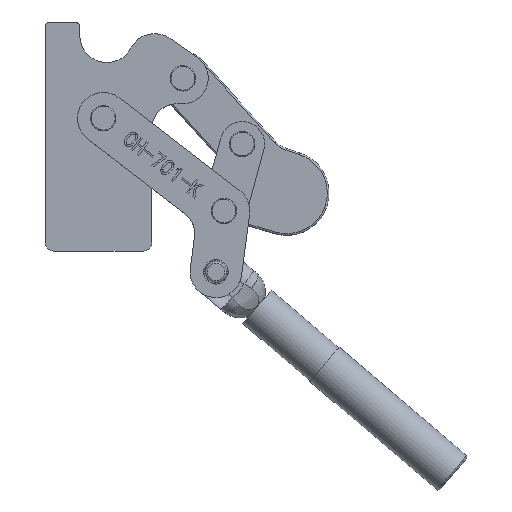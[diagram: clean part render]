
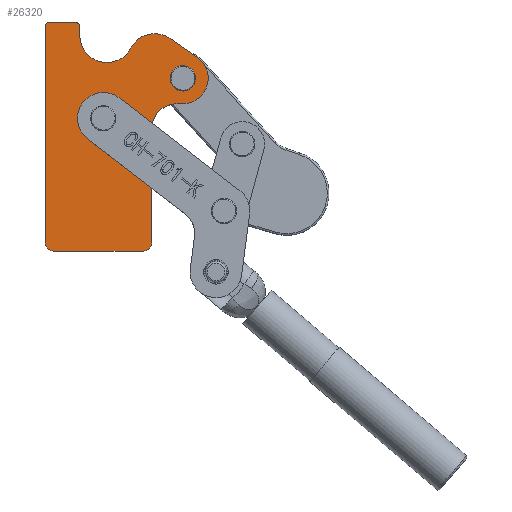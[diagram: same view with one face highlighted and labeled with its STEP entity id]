
A CAD part, top view. The second image highlights one B-rep face of the part: STEP entity #26320.
In plain terms, the highlighted planar face has unit normal (0, 0, 1).
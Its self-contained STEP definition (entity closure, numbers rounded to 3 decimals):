
#354=FACE_BOUND('',#2706,.T.);
#355=FACE_BOUND('',#2707,.T.);
#421=PLANE('',#27984);
#1296=FACE_OUTER_BOUND('',#2705,.T.);
#2705=EDGE_LOOP('',(#17648,#17649,#17650,#17651,#17652,#17653,#17654,#17655,
#17656,#17657,#17658,#17659,#17660,#17661,#17662));
#2706=EDGE_LOOP('',(#17663,#17664));
#2707=EDGE_LOOP('',(#17665,#17666));
#4181=LINE('',#39165,#6749);
#4182=LINE('',#39171,#6750);
#4183=LINE('',#39175,#6751);
#4184=LINE('',#39179,#6752);
#4185=LINE('',#39183,#6753);
#4186=LINE('',#39187,#6754);
#4187=LINE('',#39190,#6755);
#6749=VECTOR('',#30868,1000.);
#6750=VECTOR('',#30873,1000.);
#6751=VECTOR('',#30876,1000.);
#6752=VECTOR('',#30879,1000.);
#6753=VECTOR('',#30882,1000.);
#6754=VECTOR('',#30885,1000.);
#6755=VECTOR('',#30888,1000.);
#9315=CIRCLE('',#27975,6.25);
#9318=CIRCLE('',#27978,6.25);
#9319=CIRCLE('',#27980,8.5);
#9322=CIRCLE('',#27983,8.5);
#9323=CIRCLE('',#27985,15.024);
#9324=CIRCLE('',#27986,16.024);
#9325=CIRCLE('',#27987,16.);
#9326=CIRCLE('',#27988,3.);
#9327=CIRCLE('',#27989,3.);
#9328=CIRCLE('',#27990,5.);
#9329=CIRCLE('',#27991,5.);
#9330=CIRCLE('',#27992,15.);
#10764=VERTEX_POINT('',#39141);
#10765=VERTEX_POINT('',#39142);
#10768=VERTEX_POINT('',#39151);
#10769=VERTEX_POINT('',#39152);
#10772=VERTEX_POINT('',#39161);
#10773=VERTEX_POINT('',#39162);
#10774=VERTEX_POINT('',#39164);
#10775=VERTEX_POINT('',#39166);
#10776=VERTEX_POINT('',#39168);
#10777=VERTEX_POINT('',#39170);
#10778=VERTEX_POINT('',#39172);
#10779=VERTEX_POINT('',#39174);
#10780=VERTEX_POINT('',#39176);
#10781=VERTEX_POINT('',#39178);
#10782=VERTEX_POINT('',#39180);
#10783=VERTEX_POINT('',#39182);
#10784=VERTEX_POINT('',#39184);
#10785=VERTEX_POINT('',#39186);
#10786=VERTEX_POINT('',#39188);
#13525=EDGE_CURVE('',#10764,#10765,#9315,.T.);
#13529=EDGE_CURVE('',#10765,#10764,#9318,.T.);
#13530=EDGE_CURVE('',#10768,#10769,#9319,.T.);
#13534=EDGE_CURVE('',#10769,#10768,#9322,.T.);
#13535=EDGE_CURVE('',#10772,#10773,#9323,.T.);
#13536=EDGE_CURVE('',#10773,#10774,#4181,.T.);
#13537=EDGE_CURVE('',#10774,#10775,#9324,.T.);
#13538=EDGE_CURVE('',#10775,#10776,#9325,.T.);
#13539=EDGE_CURVE('',#10776,#10777,#4182,.T.);
#13540=EDGE_CURVE('',#10777,#10778,#9326,.T.);
#13541=EDGE_CURVE('',#10778,#10779,#4183,.T.);
#13542=EDGE_CURVE('',#10779,#10780,#9327,.T.);
#13543=EDGE_CURVE('',#10780,#10781,#4184,.T.);
#13544=EDGE_CURVE('',#10781,#10782,#9328,.T.);
#13545=EDGE_CURVE('',#10782,#10783,#4185,.T.);
#13546=EDGE_CURVE('',#10783,#10784,#9329,.T.);
#13547=EDGE_CURVE('',#10784,#10785,#4186,.T.);
#13548=EDGE_CURVE('',#10785,#10786,#9330,.T.);
#13549=EDGE_CURVE('',#10786,#10772,#4187,.T.);
#17648=ORIENTED_EDGE('',*,*,#13535,.T.);
#17649=ORIENTED_EDGE('',*,*,#13536,.T.);
#17650=ORIENTED_EDGE('',*,*,#13537,.T.);
#17651=ORIENTED_EDGE('',*,*,#13538,.T.);
#17652=ORIENTED_EDGE('',*,*,#13539,.T.);
#17653=ORIENTED_EDGE('',*,*,#13540,.T.);
#17654=ORIENTED_EDGE('',*,*,#13541,.T.);
#17655=ORIENTED_EDGE('',*,*,#13542,.T.);
#17656=ORIENTED_EDGE('',*,*,#13543,.T.);
#17657=ORIENTED_EDGE('',*,*,#13544,.T.);
#17658=ORIENTED_EDGE('',*,*,#13545,.T.);
#17659=ORIENTED_EDGE('',*,*,#13546,.T.);
#17660=ORIENTED_EDGE('',*,*,#13547,.T.);
#17661=ORIENTED_EDGE('',*,*,#13548,.T.);
#17662=ORIENTED_EDGE('',*,*,#13549,.T.);
#17663=ORIENTED_EDGE('',*,*,#13525,.F.);
#17664=ORIENTED_EDGE('',*,*,#13529,.F.);
#17665=ORIENTED_EDGE('',*,*,#13530,.F.);
#17666=ORIENTED_EDGE('',*,*,#13534,.F.);
#26320=ADVANCED_FACE('',(#1296,#354,#355),#421,.T.);
#27975=AXIS2_PLACEMENT_3D('',#39143,#30844,#30845);
#27978=AXIS2_PLACEMENT_3D('',#39149,#30851,#30852);
#27980=AXIS2_PLACEMENT_3D('',#39153,#30855,#30856);
#27983=AXIS2_PLACEMENT_3D('',#39159,#30862,#30863);
#27984=AXIS2_PLACEMENT_3D('',#39160,#30864,#30865);
#27985=AXIS2_PLACEMENT_3D('',#39163,#30866,#30867);
#27986=AXIS2_PLACEMENT_3D('',#39167,#30869,#30870);
#27987=AXIS2_PLACEMENT_3D('',#39169,#30871,#30872);
#27988=AXIS2_PLACEMENT_3D('',#39173,#30874,#30875);
#27989=AXIS2_PLACEMENT_3D('',#39177,#30877,#30878);
#27990=AXIS2_PLACEMENT_3D('',#39181,#30880,#30881);
#27991=AXIS2_PLACEMENT_3D('',#39185,#30883,#30884);
#27992=AXIS2_PLACEMENT_3D('',#39189,#30886,#30887);
#30844=DIRECTION('center_axis',(0.,0.,1.));
#30845=DIRECTION('ref_axis',(1.,0.,0.));
#30851=DIRECTION('center_axis',(0.,0.,1.));
#30852=DIRECTION('ref_axis',(1.,0.,0.));
#30855=DIRECTION('center_axis',(0.,0.,1.));
#30856=DIRECTION('ref_axis',(1.,0.,0.));
#30862=DIRECTION('center_axis',(0.,0.,1.));
#30863=DIRECTION('ref_axis',(1.,0.,0.));
#30864=DIRECTION('center_axis',(0.,0.,1.));
#30865=DIRECTION('ref_axis',(1.,0.,0.));
#30866=DIRECTION('center_axis',(0.,0.,1.));
#30867=DIRECTION('ref_axis',(1.,0.,0.));
#30868=DIRECTION('',(-0.819,0.573,0.));
#30869=DIRECTION('center_axis',(0.,0.,1.));
#30870=DIRECTION('ref_axis',(1.,0.,0.));
#30871=DIRECTION('center_axis',(0.,0.,-1.));
#30872=DIRECTION('ref_axis',(1.,0.,0.));
#30873=DIRECTION('',(0.,1.,0.));
#30874=DIRECTION('center_axis',(0.,0.,1.));
#30875=DIRECTION('ref_axis',(-1.,0.,0.));
#30876=DIRECTION('',(-1.,0.,0.));
#30877=DIRECTION('center_axis',(0.,0.,1.));
#30878=DIRECTION('ref_axis',(-1.,0.,0.));
#30879=DIRECTION('',(0.,-1.,0.));
#30880=DIRECTION('center_axis',(0.,0.,1.));
#30881=DIRECTION('ref_axis',(-1.,0.,0.));
#30882=DIRECTION('',(1.,0.,0.));
#30883=DIRECTION('center_axis',(0.,0.,1.));
#30884=DIRECTION('ref_axis',(1.,0.,0.));
#30885=DIRECTION('',(0.,1.,0.));
#30886=DIRECTION('center_axis',(0.,0.,-1.));
#30887=DIRECTION('ref_axis',(-1.,0.,0.));
#30888=DIRECTION('',(1.,0.,0.));
#39141=CARTESIAN_POINT('',(75.18,102.169,5.9));
#39142=CARTESIAN_POINT('',(87.68,102.169,5.9));
#39143=CARTESIAN_POINT('Origin',(81.43,102.169,5.9));
#39149=CARTESIAN_POINT('Origin',(81.43,102.169,5.9));
#39151=CARTESIAN_POINT('',(25.9,78.5,5.9));
#39152=CARTESIAN_POINT('',(42.9,78.5,5.9));
#39153=CARTESIAN_POINT('Origin',(34.4,78.5,5.9));
#39159=CARTESIAN_POINT('Origin',(34.4,78.5,5.9));
#39160=CARTESIAN_POINT('Origin',(81.43,102.169,5.9));
#39161=CARTESIAN_POINT('',(81.421,87.145,5.9));
#39162=CARTESIAN_POINT('',(90.05,114.474,5.9));
#39163=CARTESIAN_POINT('Origin',(81.43,102.169,5.9));
#39164=CARTESIAN_POINT('',(74.023,125.693,5.9));
#39165=CARTESIAN_POINT('',(74.023,125.693,5.9));
#39166=CARTESIAN_POINT('',(50.654,120.04,5.9));
#39167=CARTESIAN_POINT('Origin',(64.83,112.569,5.9));
#39168=CARTESIAN_POINT('',(20.5,127.5,5.9));
#39169=CARTESIAN_POINT('Origin',(36.5,127.5,5.9));
#39170=CARTESIAN_POINT('',(20.5,132.5,5.9));
#39171=CARTESIAN_POINT('',(20.5,132.5,5.9));
#39172=CARTESIAN_POINT('',(17.5,135.5,5.9));
#39173=CARTESIAN_POINT('Origin',(17.5,132.5,5.9));
#39174=CARTESIAN_POINT('',(3.,135.5,5.9));
#39175=CARTESIAN_POINT('',(3.,135.5,5.9));
#39176=CARTESIAN_POINT('',(0.,132.5,5.9));
#39177=CARTESIAN_POINT('Origin',(3.,132.5,5.9));
#39178=CARTESIAN_POINT('',(0.,5.,5.9));
#39179=CARTESIAN_POINT('',(0.,5.,5.9));
#39180=CARTESIAN_POINT('',(5.,0.,5.9));
#39181=CARTESIAN_POINT('Origin',(5.,5.,5.9));
#39182=CARTESIAN_POINT('',(58.,0.,5.9));
#39183=CARTESIAN_POINT('',(5.,0.,5.9));
#39184=CARTESIAN_POINT('',(63.,5.,5.9));
#39185=CARTESIAN_POINT('Origin',(58.,5.,5.9));
#39186=CARTESIAN_POINT('',(63.,72.146,5.9));
#39187=CARTESIAN_POINT('',(63.,5.,5.9));
#39188=CARTESIAN_POINT('',(78.005,87.146,5.9));
#39189=CARTESIAN_POINT('Origin',(78.,72.146,5.9));
#39190=CARTESIAN_POINT('',(81.421,87.145,5.9));
